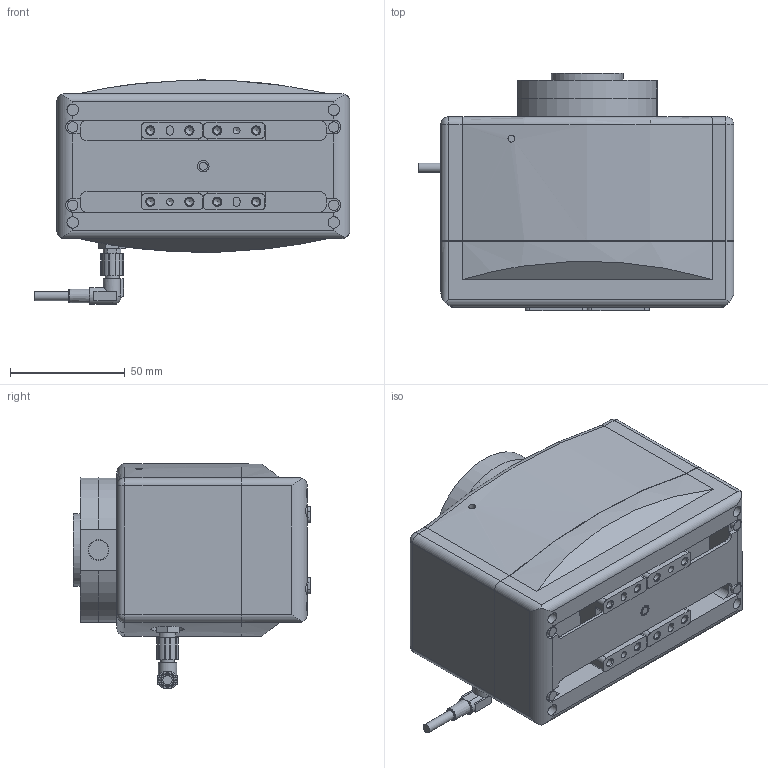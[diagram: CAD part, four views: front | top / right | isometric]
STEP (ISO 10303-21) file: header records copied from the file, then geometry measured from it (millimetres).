
FILE_DESCRIPTION(/* description */ ('STEP AP242','CAx-IF Rec.Pracs.---Representation and Presentation of Product Manufacturing Information (PMI)---4.0---2014-10-13','CAx-IF Rec.Pracs.---3D Tessellated Geometry---0.4---2014-09-14','2;1'),/* implementation_level */ '2;1');
FILE_NAME(/* name */ 'LEHR32K2-50B-011-E(0_0)',/* time_stamp */ '2025-12-02T11:38:09+01:00',/* author */ ('License CC BY-ND 4.0'),/* organization */ ('CADENAS'),/* preprocessor_version */ 'ST-DEVELOPER v20',/* originating_system */ 'PARTsolutions',/* authorisation */ ' ');
FILE_SCHEMA (('AP242_MANAGED_MODEL_BASED_3D_ENGINEERING_MIM_LF { 1 0 10303 442 1 1 4 }'));
Length unit declared in the file: millimetre
Products named in the file (5): LEHR32K2-50B-011-E(0_0); LEHR32K2-50B_MODULE BASE; LEHR32K2(0)_FINGER; RMTM2-4M1_LEHR; RMH-A00-11-A_LEHR_1
Assembly tree (5 placements, depth 2):
  LEHR32K2-50B-011-E(0_0)
    LEHR32K2-50B_MODULE BASE
    LEHR32K2(0)_FINGER  x2
    RMTM2-4M1_LEHR
    RMH-A00-11-A_LEHR_1
Bounding box: 137.4 x 103.3 x 97.5 mm (x, y, z)
Volume: 731003.7 mm3; surface area: 81940.3 mm2
Topology: 5 solids, 5 shells, 433 faces, 1095 edges, 709 vertices
Faces by surface type: plane 256, cylinder 147, cone 20, torus 5, sphere 5
Full cylindrical faces by diameter (mm): 3 x3, 3.242 x8, 3.5 x1, 4 x1, 4.5 x4, 4.95 x4, 5 x3, 6 x1, 6.6 x4, 6.9 x1, 7.22 x4, 8 x5, 8.5 x2, 9 x2, 11 x4, 14 x1, 14.5 x1, 31.5 x3
Entity records: 10935 total; most frequent: CARTESIAN_POINT 2027, DIRECTION 1852, ORIENTED_EDGE 1706, EDGE_CURVE 853, AXIS2_PLACEMENT_3D 653, VERTEX_POINT 592, LINE 546, VECTOR 546
